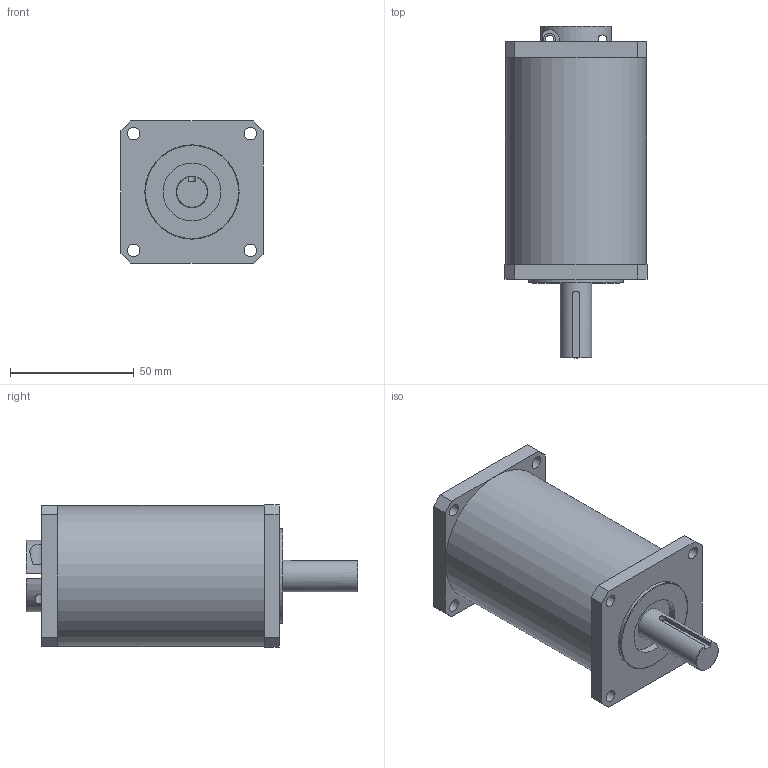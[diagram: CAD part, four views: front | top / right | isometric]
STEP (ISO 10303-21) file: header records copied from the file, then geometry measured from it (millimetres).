
FILE_DESCRIPTION( ( 'Unknown' ), '1' );
FILE_NAME( 'K:/Tegninger - Vare/Gear/HMGH/LT0133.stp', 'Unknown', ( 'Unknown' ), ( 'Unknown' ), 'PSStep 10.1', 'Unknown', ' ' );
FILE_SCHEMA( ( 'AUTOMOTIVE_DESIGN { 1 0 10303 214 1 1 1 1 }' ) );
Length unit declared in the file: millimetre
Products named in the file (5): Assem1; Planetary gear 15 scale 1; Shaft for motor; Bush for shaft
Bounding box: 57.4 x 134.1 x 57.4 mm (x, y, z)
Surface area: 73547.5 mm2
Topology: 8 solids, 8 shells, 162 faces, 384 edges, 260 vertices
Faces by surface type: plane 100, cylinder 58, torus 4
Full cylindrical faces by diameter (mm): 3.4 x4, 5 x4, 5.1 x16, 6.37 x2, 12.7 x4, 16 x4, 23.4 x2, 35 x2, 38.1 x2, 38.18 x2, 57 x2
Entity records: 3135 total; most frequent: CARTESIAN_POINT 582, DIRECTION 385, ORIENTED_EDGE 318, EDGE_CURVE 159, AXIS2_PLACEMENT_3D 147, EDGE_LOOP 139, VERTEX_POINT 120, FACE_OUTER_BOUND 104
